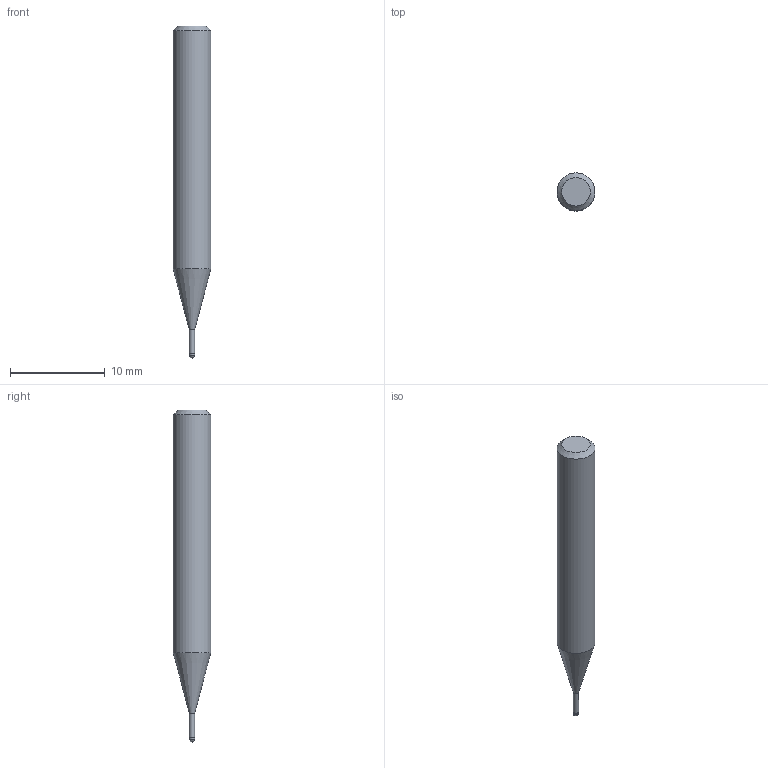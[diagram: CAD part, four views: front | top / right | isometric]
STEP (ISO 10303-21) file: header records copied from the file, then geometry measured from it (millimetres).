
FILE_DESCRIPTION((''),'2;1');
FILE_NAME('C:\Users\nsx150\AppData\Local\Temp\Mastercam 2021\QT8KEW0Y7J\TEMP.step','2021-04-23T11:20:52',(''),(''),'STEP Write','Mastercam 2021 ... CNC Software, Inc.','');
FILE_SCHEMA(('AUTOMOTIVE_DESIGN'));
Length unit declared in the file: millimetre
Products named in the file (1): None
Bounding box: 4 x 4 x 35 mm (x, y, z)
Volume: 351.9 mm3; surface area: 383.5 mm2
Topology: 2 solids, 2 shells, 9 faces, 14 edges, 8 vertices
Faces by surface type: plane 3, cylinder 3, cone 2, sphere 1
Full cylindrical faces by diameter (mm): 0.56 x1, 0.6 x1, 4 x1
Entity records: 211 total; most frequent: DIRECTION 36, CARTESIAN_POINT 25, AXIS2_PLACEMENT_3D 18, ORIENTED_EDGE 14, EDGE_LOOP 14, STYLED_ITEM 12, ADVANCED_FACE 9, FACE_BOUND 8
